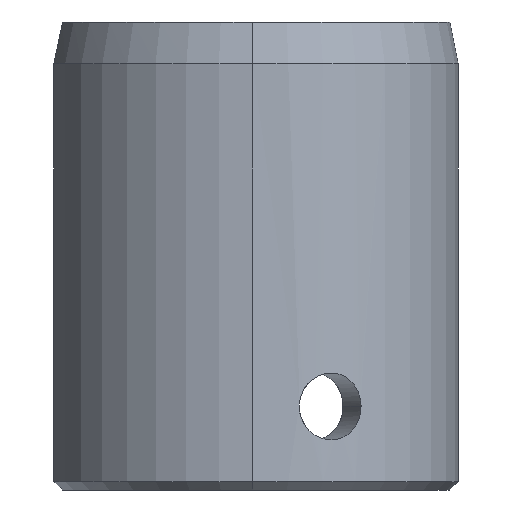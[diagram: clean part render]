
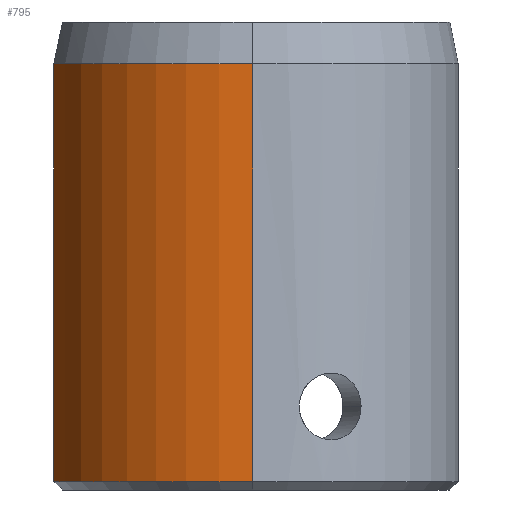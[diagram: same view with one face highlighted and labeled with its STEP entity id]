
A CAD part, left-side view. The second image highlights one B-rep face of the part: STEP entity #795.
In plain terms, the highlighted cylindrical face has radius 24.606 mm (diameter 49.212 mm), a partial arc.
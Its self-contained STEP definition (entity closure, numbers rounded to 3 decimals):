
#14 = FACE_OUTER_BOUND ( 'NONE', #1005, .T. ) ;
#30 = ORIENTED_EDGE ( 'NONE', *, *, #587, .T. ) ;
#68 = CIRCLE ( 'NONE', #751, 24.606 ) ;
#94 = CIRCLE ( 'NONE', #692, 24.606 ) ;
#123 = DIRECTION ( 'NONE',  ( 1., 0., 0. ) ) ;
#127 = LINE ( 'NONE', #563, #162 ) ;
#162 = VECTOR ( 'NONE', #574, 1000. ) ;
#205 = VECTOR ( 'NONE', #314, 1000. ) ;
#231 = CARTESIAN_POINT ( 'NONE',  ( -6.35, 23.773, -27. ) ) ;
#298 = CARTESIAN_POINT ( 'NONE',  ( -24.606, 0., 23. ) ) ;
#314 = DIRECTION ( 'NONE',  ( 0., 0., -1. ) ) ;
#382 = EDGE_CURVE ( 'NONE', #426, #1004, #127, .T. ) ;
#412 = CARTESIAN_POINT ( 'NONE',  ( 0., 0., 28. ) ) ;
#419 = DIRECTION ( 'NONE',  ( 0., 0., 1. ) ) ;
#426 = VERTEX_POINT ( 'NONE', #582 ) ;
#461 = DIRECTION ( 'NONE',  ( 0., 0., -1. ) ) ;
#481 = DIRECTION ( 'NONE',  ( -1., 0., 0. ) ) ;
#518 = VERTEX_POINT ( 'NONE', #888 ) ;
#563 = CARTESIAN_POINT ( 'NONE',  ( -6.35, 23.773, 28. ) ) ;
#564 = ORIENTED_EDGE ( 'NONE', *, *, #847, .F. ) ;
#574 = DIRECTION ( 'NONE',  ( 0., 0., -1. ) ) ;
#582 = CARTESIAN_POINT ( 'NONE',  ( -6.35, 23.773, 23. ) ) ;
#587 = EDGE_CURVE ( 'NONE', #1026, #426, #94, .T. ) ;
#644 = CARTESIAN_POINT ( 'NONE',  ( 0., 0., -27. ) ) ;
#680 = CYLINDRICAL_SURFACE ( 'NONE', #1022, 24.606 ) ;
#692 = AXIS2_PLACEMENT_3D ( 'NONE', #733, #727, #719 ) ;
#698 = EDGE_CURVE ( 'NONE', #1004, #518, #68, .T. ) ;
#719 = DIRECTION ( 'NONE',  ( 1., 0., 0. ) ) ;
#727 = DIRECTION ( 'NONE',  ( 0., 0., -1. ) ) ;
#733 = CARTESIAN_POINT ( 'NONE',  ( 0., 0., 23. ) ) ;
#751 = AXIS2_PLACEMENT_3D ( 'NONE', #644, #419, #123 ) ;
#795 = ADVANCED_FACE ( 'NONE', ( #14 ), #680, .T. ) ;
#830 = LINE ( 'NONE', #920, #205 ) ;
#847 = EDGE_CURVE ( 'NONE', #1026, #518, #830, .T. ) ;
#888 = CARTESIAN_POINT ( 'NONE',  ( -24.606, 0., -27. ) ) ;
#920 = CARTESIAN_POINT ( 'NONE',  ( -24.606, 0., 28. ) ) ;
#983 = ORIENTED_EDGE ( 'NONE', *, *, #698, .T. ) ;
#1001 = ORIENTED_EDGE ( 'NONE', *, *, #382, .T. ) ;
#1004 = VERTEX_POINT ( 'NONE', #231 ) ;
#1005 = EDGE_LOOP ( 'NONE', ( #564, #30, #1001, #983 ) ) ;
#1022 = AXIS2_PLACEMENT_3D ( 'NONE', #412, #461, #481 ) ;
#1026 = VERTEX_POINT ( 'NONE', #298 ) ;
